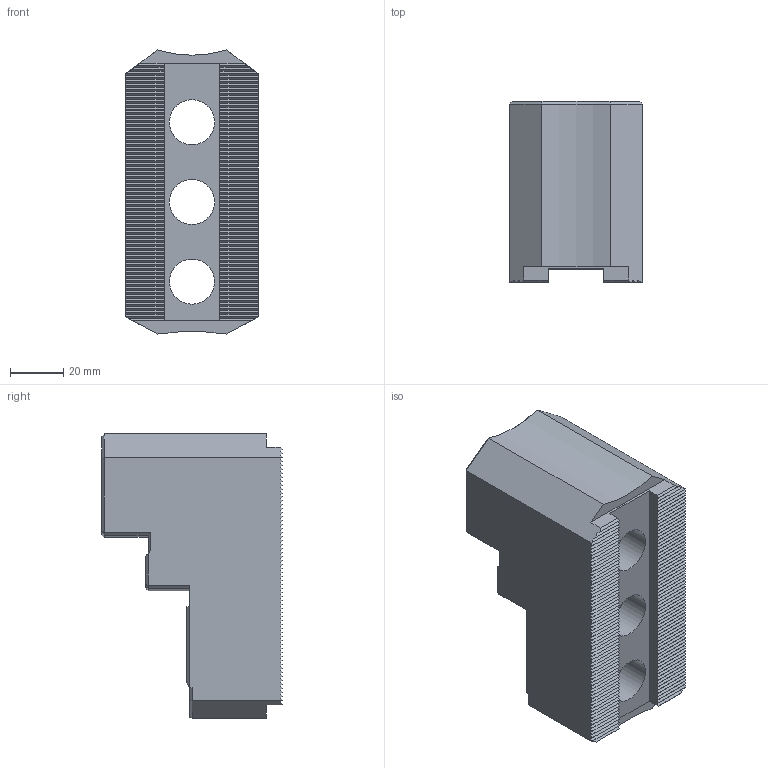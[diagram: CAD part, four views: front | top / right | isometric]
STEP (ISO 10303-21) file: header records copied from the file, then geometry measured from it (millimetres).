
FILE_DESCRIPTION(/* description */ (''),/* implementation_level */ '2;1');
FILE_NAME(/* name */ '',/* time_stamp */ '2025-10-21T10:35:52+03:00',/* author */ ('Arina Rekina'),/* organization */ (''),/* preprocessor_version */ 'ST-DEVELOPER v19.2',/* originating_system */ 'Autodesk Inventor 2024',/* authorisation */ '');
FILE_SCHEMA (('AUTOMOTIVE_DESIGN { 1 0 10303 214 3 1 1 }'));
Length unit declared in the file: millimetre
Products named in the file (1): кулачки сырые 
прямые
Bounding box: 50 x 68 x 107 mm (x, y, z)
Volume: 184416.6 mm3; surface area: 35425.2 mm2
Topology: 1 solids, 1 shells, 351 faces, 1015 edges, 666 vertices
Faces by surface type: plane 326, cylinder 14, cone 11
Full cylindrical faces by diameter (mm): 17 x3, 25.5 x3
Entity records: 11373 total; most frequent: CARTESIAN_POINT 2081, ORIENTED_EDGE 2030, DIRECTION 1756, EDGE_CURVE 1015, LINE 946, VECTOR 946, VERTEX_POINT 666, AXIS2_PLACEMENT_3D 405
